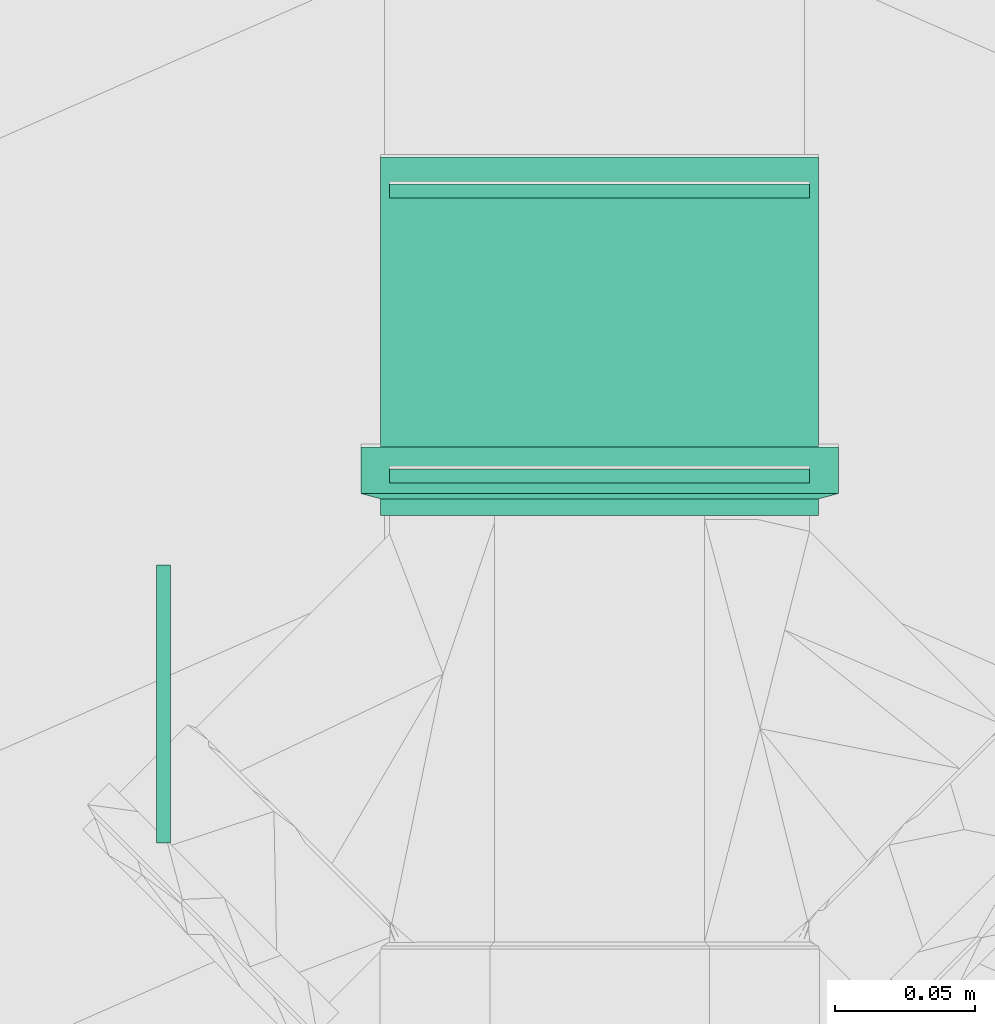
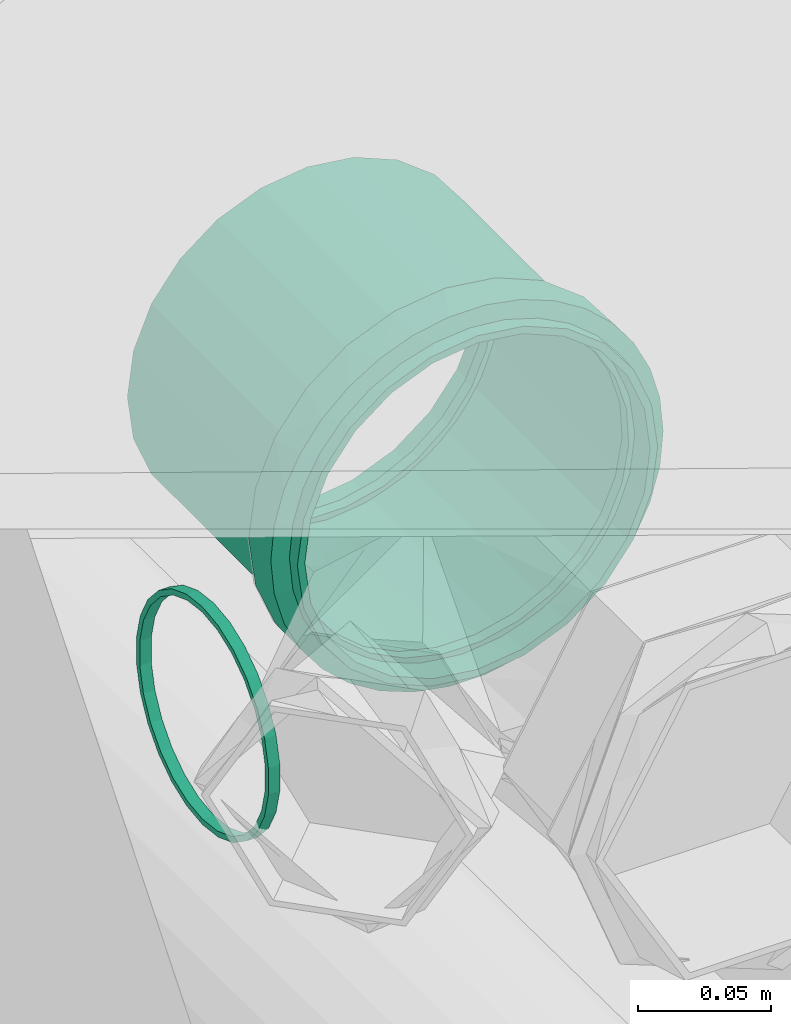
# One storey, part 128 of 166: 4 flow fittings.
"""IFC2X3 building model written with IfcOpenShell, lengths in metres."""

from ifc_helpers import new_model, entity, si_unit, converted_unit, direction, frame, frame_2d, origin, place, context, subcontext, project, spatial, hollow_circle, extrude, faceted_brep, source, transform, mapped, material, type_object, type_shapes, element, save


model = new_model("IFC2X3")

# Units and contexts
model_context = context("Model", 3, precision=1e-05, world=origin(), true_north=direction((6.123233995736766e-17, 1.0)))
body_context = subcontext(model_context, "Body", "Model", "MODEL_VIEW")
ifc_project = project(units=[si_unit("LENGTHUNIT", "METRE"), converted_unit("PLANEANGLEUNIT", "DEGREE", entity("IfcPlaneAngleMeasure", 0.017453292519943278), si_unit("PLANEANGLEUNIT", "RADIAN"), dimensions=[0, 0, 0, 0, 0, 0, 0]), si_unit("AREAUNIT", "SQUARE_METRE")], contexts=[model_context])

# Site, building, storey
site_placement = place(None, origin())
site = spatial("IfcSite", under=ifc_project, at=site_placement, Name="Default", CompositionType="ELEMENT")
building_placement = place(site_placement, origin())
building = spatial("IfcBuilding", under=site, at=building_placement, Name="CASA DE ACOLHIDA PARA IDOSOS", CompositionType="ELEMENT")
storey_placement = place(building_placement, frame((0.0, 0.0, -1.7499999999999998)))
storey = spatial("IfcBuildingStorey", under=building, at=storey_placement, Name="IMPLANTAÇÃO DRENAGEM", CompositionType="ELEMENT", Elevation=-1.7499999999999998)

# Flow fittings
ifc_material_1 = material(Name="PVC Bege Pérola")
pipe_fitting_type_1 = type_object("IfcPipeFittingType", Name="PLUV_Serie Reforcada_Luva Simples:Standard", PredefinedType="NOTDEFINED", material=ifc_material_1)
shared_shape_1 = source(origin(), body_context, "Body", "Brep", [
    faceted_brep([(0.02451000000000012, -0.039124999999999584, -0.06776648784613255), (0.02451000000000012, -0.06028085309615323, -0.06028085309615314), (0.02451000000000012, -0.04262500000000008, -0.07382866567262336), (0.02451000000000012, -0.020252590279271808, -0.0755836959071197), (0.02451000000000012, -0.05533110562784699, -0.055331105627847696), (0.02451000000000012, -0.07382866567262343, -0.04262499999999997), (0.02451000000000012, -0.06776648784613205, -0.03912500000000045), (0.02451000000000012, -0.07558369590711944, -0.02025259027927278), (0.02451000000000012, -0.08234517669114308, -0.022064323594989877), (0.02451000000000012, -0.07825, 0.0), (0.02451000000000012, -0.08525, 0.0), (0.02451000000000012, -0.07558369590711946, 0.020252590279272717), (0.02451000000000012, -0.0823451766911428, 0.022064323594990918), (0.02451000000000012, -0.06776648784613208, 0.039125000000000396), (0.02451000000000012, -0.07382866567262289, 0.04262500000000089), (0.02451000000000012, -0.05533110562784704, 0.055331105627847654), (0.02451000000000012, -0.06028085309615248, 0.0602808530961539), (0.02451000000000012, -0.03912499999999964, 0.06776648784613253), (0.02451000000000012, -0.04262499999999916, 0.07382866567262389), (0.02451000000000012, -0.020252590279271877, 0.07558369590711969), (0.02451000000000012, -0.02206432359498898, 0.08234517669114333), (0.02451000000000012, 0.0, 0.07825), (0.02451000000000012, 0.0, 0.08525), (0.02451000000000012, 0.020252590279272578, 0.0755836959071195), (0.02451000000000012, 0.022064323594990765, 0.08234517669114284), (0.02451000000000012, 0.03912500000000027, 0.06776648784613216), (0.02451000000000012, 0.042625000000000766, 0.07382866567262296), (0.02451000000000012, 0.05533110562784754, 0.055331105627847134), (0.02451000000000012, 0.0602808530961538, 0.06028085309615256), (0.02451000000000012, 0.06776648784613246, 0.03912499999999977), (0.02451000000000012, 0.07382866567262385, 0.042624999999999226), (0.02451000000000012, 0.08234517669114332, 0.02206432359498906), (0.02451000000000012, 0.07558369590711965, 0.020252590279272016), (0.02451000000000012, 0.08525, 0.0), (0.02451000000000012, 0.07825, 0.0), (0.02451000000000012, 0.08234517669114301, -0.022064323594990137), (0.02451000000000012, 0.07558369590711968, -0.020252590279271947), (0.02451000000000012, 0.07382866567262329, -0.04262500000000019), (0.02451000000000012, 0.0677664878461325, -0.03912499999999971), (0.02451000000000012, 0.060280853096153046, -0.060280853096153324), (0.02451000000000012, 0.05533110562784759, -0.055331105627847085), (0.02451000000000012, 0.042624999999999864, -0.0738286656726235), (0.02451000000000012, 0.039125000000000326, -0.06776648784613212), (0.02451000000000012, 0.02206432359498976, -0.08234517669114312), (0.02451000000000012, 0.02025259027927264, -0.07558369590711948), (0.02451000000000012, 0.0, -0.08525), (0.02451000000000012, 0.0, -0.07825), (0.02451000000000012, -0.022064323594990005, -0.08234517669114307), (0.007830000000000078, 0.08379835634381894, 0.01566518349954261), (0.007830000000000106, 0.07949286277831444, 0.03079687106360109), (0.007830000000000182, 0.05137242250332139, 0.06803261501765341), (0.007830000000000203, 0.03799626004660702, 0.07631413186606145), (0.007830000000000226, 0.00786152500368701, 0.08488674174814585), (0.00783000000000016, 0.06299903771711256, 0.057434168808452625), (0.007830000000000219, 0.023326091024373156, 0.08199668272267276), (0.007830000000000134, 0.07248014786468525, 0.044879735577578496), (0.00783000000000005, 0.08525, 0.0), (0.00783000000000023, -0.007870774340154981, 0.08488588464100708), (0.007830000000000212, -0.03800457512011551, 0.07630999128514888), (0.007830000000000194, -0.05137983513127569, 0.06802701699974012), (0.007830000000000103, -0.07949621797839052, 0.030788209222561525), (0.007830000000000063, -0.08380006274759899, 0.015656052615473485), (0.007830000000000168, -0.06300529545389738, 0.05742730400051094), (0.00783000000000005, -0.08525, 0.0), (0.007830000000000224, -0.023335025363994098, 0.08199414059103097), (0.007830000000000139, -0.07248503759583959, 0.04487183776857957), (0.007830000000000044, -0.08380006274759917, -0.015656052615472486), (0.007830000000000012, -0.07949621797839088, -0.03078820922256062), (0.00782999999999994, -0.05137983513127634, -0.06802701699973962), (0.007829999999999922, -0.038004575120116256, -0.07630999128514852), (0.007829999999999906, -0.007870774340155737, -0.084885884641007), (0.00782999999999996, -0.063005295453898, -0.05742730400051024), (0.007829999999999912, -0.023335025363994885, -0.08199414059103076), (0.007829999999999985, -0.07248503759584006, -0.04487183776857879), (0.007829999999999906, 0.007861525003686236, -0.0848867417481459), (0.007829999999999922, 0.037996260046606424, -0.07631413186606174), (0.007829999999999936, 0.05137242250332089, -0.06803261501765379), (0.00783, 0.07949286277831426, -0.030796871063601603), (0.007830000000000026, 0.08379835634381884, -0.015665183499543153), (0.007829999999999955, 0.06299903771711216, -0.057434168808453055), (0.007829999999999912, 0.023326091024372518, -0.08199668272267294), (0.007829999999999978, 0.07248014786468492, -0.044879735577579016), (0.1280100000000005, -0.0374999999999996, -0.06495190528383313), (0.1280100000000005, -0.055331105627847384, -0.05533110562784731), (0.1280100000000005, -0.03912500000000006, -0.06776648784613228), (0.1280100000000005, -0.01941142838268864, -0.07244443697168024), (0.1280100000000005, -0.05303300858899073, -0.053033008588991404), (0.1280100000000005, -0.06776648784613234, -0.039124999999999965), (0.1280100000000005, -0.06495190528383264, -0.03750000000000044), (0.1280100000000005, -0.07244443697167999, -0.01941142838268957), (0.1280100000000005, -0.07558369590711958, -0.020252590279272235), (0.1280100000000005, -0.07500000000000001, 0.0), (0.1280100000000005, -0.07825, 0.0), (0.1280100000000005, -0.07244443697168, 0.019411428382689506), (0.1280100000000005, -0.07558369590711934, 0.020252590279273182), (0.1280100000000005, -0.06495190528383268, 0.03750000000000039), (0.1280100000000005, -0.06776648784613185, 0.03912500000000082), (0.1280100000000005, -0.05303300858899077, 0.05303300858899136), (0.1280100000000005, -0.0553311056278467, 0.055331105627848), (0.1280100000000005, -0.03749999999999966, 0.0649519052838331), (0.1280100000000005, -0.039124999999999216, 0.06776648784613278), (0.1280100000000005, -0.0194114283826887, 0.07244443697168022), (0.1280100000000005, -0.020252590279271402, 0.07558369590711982), (0.1280100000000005, 0.0, 0.07500000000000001), (0.1280100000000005, 0.0, 0.07825), (0.1280100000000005, 0.019411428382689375, 0.07244443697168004), (0.1280100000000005, 0.020252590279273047, 0.07558369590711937), (0.1280100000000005, 0.03750000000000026, 0.06495190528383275), (0.1280100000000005, 0.039125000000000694, 0.06776648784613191), (0.1280100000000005, 0.05303300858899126, 0.05303300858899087), (0.1280100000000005, 0.055331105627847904, 0.05533110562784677), (0.1280100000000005, 0.06495190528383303, 0.037499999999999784), (0.1280100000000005, 0.06776648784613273, 0.039124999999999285), (0.1280100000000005, 0.0755836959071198, 0.02025259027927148), (0.1280100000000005, 0.07244443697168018, 0.019411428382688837), (0.1280100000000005, 0.07825, 0.0), (0.1280100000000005, 0.07500000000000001, 0.0), (0.1280100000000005, 0.07558369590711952, -0.020252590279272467), (0.1280100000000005, 0.0724444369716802, -0.01941142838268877), (0.1280100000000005, 0.06776648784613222, -0.039125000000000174), (0.1280100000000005, 0.06495190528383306, -0.03749999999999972), (0.1280100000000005, 0.05533110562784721, -0.05533110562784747), (0.1280100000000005, 0.053033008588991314, -0.05303300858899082), (0.1280100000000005, 0.03912499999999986, -0.0677664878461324), (0.1280100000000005, 0.03750000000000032, -0.06495190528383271), (0.1280100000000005, 0.02025259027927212, -0.07558369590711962), (0.1280100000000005, 0.019411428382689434, -0.07244443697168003), (0.1280100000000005, 0.0, -0.07825), (0.1280100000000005, 0.0, -0.07500000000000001), (0.1280100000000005, -0.020252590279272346, -0.07558369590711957), (0.0, -0.03912500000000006, -0.06776648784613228), (0.0, -0.055331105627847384, -0.05533110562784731), (0.0, -0.0374999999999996, -0.06495190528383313), (0.0, -0.01941142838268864, -0.07244443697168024), (0.0, -0.020252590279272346, -0.07558369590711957), (0.0, -0.05303300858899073, -0.053033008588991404), (0.0, -0.06776648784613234, -0.039124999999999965), (0.0, -0.06495190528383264, -0.03750000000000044), (0.0, -0.07244443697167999, -0.01941142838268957), (0.0, -0.07558369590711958, -0.020252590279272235), (0.0, -0.07500000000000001, 0.0), (0.0, -0.07825, 0.0), (0.0, -0.07244443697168, 0.019411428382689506), (0.0, -0.07558369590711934, 0.020252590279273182), (0.0, -0.06495190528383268, 0.03750000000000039), (0.0, -0.06776648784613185, 0.03912500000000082), (0.0, -0.05303300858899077, 0.05303300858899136), (0.0, -0.0553311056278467, 0.055331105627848), (0.0, -0.03749999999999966, 0.0649519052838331), (0.0, -0.039124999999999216, 0.06776648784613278), (0.0, -0.0194114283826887, 0.07244443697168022), (0.0, -0.020252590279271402, 0.07558369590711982), (0.0, 0.0, 0.07500000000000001), (0.0, 0.0, 0.07825), (0.0, 0.019411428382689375, 0.07244443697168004), (0.0, 0.020252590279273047, 0.07558369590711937), (0.0, 0.03750000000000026, 0.06495190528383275), (0.0, 0.039125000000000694, 0.06776648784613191), (0.0, 0.05303300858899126, 0.05303300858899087), (0.0, 0.055331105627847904, 0.05533110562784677), (0.0, 0.06495190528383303, 0.037499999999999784), (0.0, 0.06776648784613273, 0.039124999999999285), (0.0, 0.0755836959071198, 0.02025259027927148), (0.0, 0.07244443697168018, 0.019411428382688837), (0.0, 0.07825, 0.0), (0.0, 0.07500000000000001, 0.0), (0.0, 0.07558369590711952, -0.020252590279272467), (0.0, 0.0724444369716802, -0.01941142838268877), (0.0, 0.06776648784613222, -0.039125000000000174), (0.0, 0.06495190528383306, -0.03749999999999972), (0.0, 0.05533110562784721, -0.05533110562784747), (0.0, 0.053033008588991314, -0.05303300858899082), (0.0, 0.03912499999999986, -0.0677664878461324), (0.0, 0.03750000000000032, -0.06495190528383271), (0.0, 0.02025259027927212, -0.07558369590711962), (0.0, 0.019411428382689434, -0.07244443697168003), (0.0, 0.0, -0.07825), (0.0, 0.0, -0.07500000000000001), (0.0059500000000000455, 0.07825, 0.0), (0.005950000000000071, 0.07674636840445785, 0.015266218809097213), (0.005950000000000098, 0.0722932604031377, 0.02994573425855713), (0.005950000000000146, 0.05532994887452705, 0.05533226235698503), (0.005950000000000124, 0.06506181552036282, 0.043474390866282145), (0.005950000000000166, 0.04347167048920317, 0.06506363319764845), (0.005950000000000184, 0.029942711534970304, 0.07229451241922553), (0.005950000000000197, 0.015263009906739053, 0.07674700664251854), (0.005950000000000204, -3.271758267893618e-06, 0.07824999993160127), (0.005950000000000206, -0.015269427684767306, 0.07674573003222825), (0.005950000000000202, -0.029948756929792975, 0.07229200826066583), (0.005950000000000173, -0.055334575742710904, 0.05532763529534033), (0.00595000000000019, -0.04347711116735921, 0.0650599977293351), (0.0059500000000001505, -0.06506545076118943, 0.043468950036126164), (0.005950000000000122, -0.07229576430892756, 0.02993968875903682), (0.0059500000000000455, -0.07825, 0.0), (0.005950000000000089, -0.07674764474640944, 0.015259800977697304), (0.0059499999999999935, -0.07674764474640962, -0.015259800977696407), (0.005949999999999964, -0.0722957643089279, -0.02993968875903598), (0.005949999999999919, -0.05533457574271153, -0.05532763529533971), (0.005949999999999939, -0.06506545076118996, -0.04346895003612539), (0.005949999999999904, -0.04347711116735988, -0.06505999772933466), (0.005949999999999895, -0.029948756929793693, -0.07229200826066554), (0.00594999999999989, -0.015269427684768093, -0.0767457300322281), (0.005949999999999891, -3.2717582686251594e-06, -0.07824999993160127), (0.005949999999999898, 0.015263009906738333, -0.07674700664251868), (0.00594999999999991, 0.029942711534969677, -0.0722945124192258), (0.005949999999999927, 0.04347167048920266, -0.0650636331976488), (0.00594999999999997, 0.06506181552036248, -0.043474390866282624), (0.005949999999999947, 0.055329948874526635, -0.055332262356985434), (0.005949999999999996, 0.0722932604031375, -0.02994573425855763), (0.00595000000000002, 0.07674636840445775, -0.015266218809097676), (0.06700000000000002, 0.07500000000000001, 0.0), (0.067, -0.07500000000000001, 0.0)], [[[0, 1, 2]], [[3, 0, 2]], [[4, 1, 0]], [[1, 4, 5]], [[6, 5, 4]], [[7, 5, 6]], [[5, 7, 8]], [[7, 9, 8]], [[10, 8, 9]], [[10, 9, 11]], [[11, 12, 10]], [[13, 12, 11]], [[12, 13, 14]], [[15, 14, 13]], [[16, 14, 15]], [[16, 15, 17]], [[17, 18, 16]], [[19, 18, 17]], [[18, 19, 20]], [[21, 20, 19]], [[22, 20, 21]], [[23, 22, 21]], [[24, 22, 23]], [[25, 24, 23]], [[24, 25, 26]], [[25, 27, 26]], [[28, 26, 27]], [[27, 29, 28]], [[28, 29, 30]], [[31, 30, 29]], [[29, 32, 31]], [[31, 32, 33]], [[32, 34, 33]], [[33, 34, 35]], [[34, 36, 35]], [[37, 35, 36]], [[36, 38, 37]], [[39, 37, 38]], [[40, 39, 38]], [[40, 41, 39]], [[42, 41, 40]], [[43, 41, 42]], [[42, 44, 43]], [[43, 44, 45]], [[44, 46, 45]], [[46, 3, 47]], [[45, 46, 47]], [[2, 47, 3]], [[33, 48, 31]], [[31, 49, 30]], [[26, 28, 50]], [[51, 24, 26]], [[22, 24, 52]], [[53, 28, 30]], [[24, 54, 52]], [[30, 49, 55]], [[31, 48, 49]], [[33, 56, 48]], [[26, 50, 51]], [[50, 28, 53]], [[30, 55, 53]], [[54, 24, 51]], [[22, 57, 20]], [[18, 20, 58]], [[59, 16, 18]], [[12, 14, 60]], [[61, 10, 12]], [[62, 14, 16]], [[61, 63, 10]], [[18, 58, 59]], [[20, 64, 58]], [[20, 57, 64]], [[14, 65, 60]], [[65, 14, 62]], [[16, 59, 62]], [[61, 12, 60]], [[52, 57, 22]], [[10, 66, 8]], [[8, 67, 5]], [[2, 1, 68]], [[69, 47, 2]], [[45, 47, 70]], [[71, 1, 5]], [[47, 72, 70]], [[5, 67, 73]], [[8, 66, 67]], [[10, 63, 66]], [[2, 68, 69]], [[68, 1, 71]], [[5, 73, 71]], [[72, 47, 69]], [[45, 74, 43]], [[41, 43, 75]], [[76, 39, 41]], [[77, 35, 37]], [[33, 35, 78]], [[78, 56, 33]], [[79, 37, 39]], [[35, 77, 78]], [[41, 75, 76]], [[43, 80, 75]], [[43, 74, 80]], [[81, 37, 79]], [[39, 76, 79]], [[37, 81, 77]], [[70, 74, 45]], [[82, 83, 84]], [[85, 82, 84]], [[86, 83, 82]], [[83, 86, 87]], [[88, 87, 86]], [[89, 87, 88]], [[87, 89, 90]], [[89, 91, 90]], [[92, 90, 91]], [[92, 91, 93]], [[93, 94, 92]], [[95, 94, 93]], [[94, 95, 96]], [[97, 96, 95]], [[98, 96, 97]], [[98, 97, 99]], [[99, 100, 98]], [[101, 100, 99]], [[100, 101, 102]], [[103, 102, 101]], [[104, 102, 103]], [[105, 104, 103]], [[106, 104, 105]], [[107, 106, 105]], [[106, 107, 108]], [[108, 107, 109]], [[110, 108, 109]], [[109, 111, 110]], [[110, 111, 112]], [[113, 112, 111]], [[111, 114, 113]], [[113, 114, 115]], [[114, 116, 115]], [[115, 116, 117]], [[116, 118, 117]], [[119, 117, 118]], [[118, 120, 119]], [[121, 119, 120]], [[122, 121, 120]], [[122, 123, 121]], [[123, 122, 124]], [[125, 123, 124]], [[124, 126, 125]], [[125, 126, 127]], [[126, 128, 127]], [[128, 85, 129]], [[127, 128, 129]], [[84, 129, 85]], [[130, 131, 132]], [[130, 132, 133]], [[133, 134, 130]], [[132, 131, 135]], [[136, 135, 131]], [[135, 136, 137]], [[137, 136, 138]], [[139, 138, 136]], [[139, 140, 138]], [[140, 139, 141]], [[142, 140, 141]], [[141, 143, 142]], [[142, 143, 144]], [[145, 144, 143]], [[144, 145, 146]], [[146, 145, 147]], [[148, 146, 147]], [[147, 149, 148]], [[148, 149, 150]], [[151, 150, 149]], [[150, 151, 152]], [[152, 151, 153]], [[152, 153, 154]], [[154, 153, 155]], [[154, 155, 156]], [[157, 156, 155]], [[158, 156, 157]], [[158, 157, 159]], [[159, 160, 158]], [[161, 160, 159]], [[160, 161, 162]], [[162, 163, 160]], [[164, 163, 162]], [[164, 165, 163]], [[166, 165, 164]], [[166, 167, 165]], [[167, 166, 168]], [[168, 169, 167]], [[169, 168, 170]], [[169, 170, 171]], [[170, 172, 171]], [[173, 171, 172]], [[173, 172, 174]], [[174, 175, 173]], [[176, 175, 174]], [[134, 177, 176]], [[176, 177, 175]], [[134, 133, 177]], [[178, 164, 179]], [[179, 162, 180]], [[181, 182, 159]], [[159, 183, 181]], [[161, 182, 180]], [[183, 157, 184]], [[182, 161, 159]], [[180, 162, 161]], [[179, 164, 162]], [[155, 153, 185]], [[186, 185, 153]], [[155, 184, 157]], [[183, 159, 157]], [[184, 155, 185]], [[187, 153, 151]], [[187, 151, 188]], [[189, 190, 147]], [[147, 191, 189]], [[149, 190, 188]], [[191, 145, 192]], [[191, 147, 145]], [[190, 149, 147]], [[188, 151, 149]], [[141, 193, 194]], [[194, 143, 141]], [[192, 145, 143]], [[143, 194, 192]], [[186, 153, 187]], [[193, 141, 195]], [[195, 139, 196]], [[197, 198, 131]], [[131, 199, 197]], [[136, 198, 196]], [[199, 130, 200]], [[198, 136, 131]], [[196, 139, 136]], [[195, 141, 139]], [[176, 201, 134]], [[134, 200, 130]], [[176, 202, 201]], [[199, 131, 130]], [[200, 134, 201]], [[203, 174, 204]], [[204, 172, 205]], [[206, 207, 170]], [[208, 206, 168]], [[170, 207, 205]], [[209, 208, 166]], [[205, 172, 170]], [[204, 174, 172]], [[203, 176, 174]], [[209, 166, 164]], [[166, 208, 168]], [[206, 170, 168]], [[178, 209, 164]], [[202, 176, 203]], [[206, 208, 81]], [[78, 209, 178]], [[77, 208, 209]], [[75, 204, 205]], [[205, 207, 76]], [[206, 79, 207]], [[204, 80, 203]], [[77, 209, 78]], [[78, 178, 56]], [[81, 208, 77]], [[203, 80, 74]], [[207, 79, 76]], [[205, 76, 75]], [[204, 75, 80]], [[79, 206, 81]], [[74, 202, 203]], [[200, 201, 72]], [[202, 70, 201]], [[200, 69, 199]], [[67, 195, 196]], [[196, 198, 73]], [[71, 198, 197]], [[199, 68, 197]], [[193, 195, 66]], [[199, 69, 68]], [[201, 70, 72]], [[200, 72, 69]], [[193, 66, 63]], [[198, 71, 73]], [[196, 73, 67]], [[195, 67, 66]], [[71, 197, 68]], [[74, 70, 202]], [[191, 192, 65]], [[61, 194, 193]], [[60, 192, 194]], [[58, 188, 190]], [[190, 189, 59]], [[191, 62, 189]], [[188, 64, 187]], [[60, 194, 61]], [[61, 193, 63]], [[65, 192, 60]], [[187, 64, 57]], [[189, 62, 59]], [[190, 59, 58]], [[188, 58, 64]], [[62, 191, 65]], [[57, 186, 187]], [[184, 185, 54]], [[186, 52, 185]], [[184, 51, 183]], [[49, 179, 180]], [[180, 182, 55]], [[53, 182, 181]], [[183, 50, 181]], [[178, 179, 48]], [[183, 51, 50]], [[185, 52, 54]], [[184, 54, 51]], [[178, 48, 56]], [[182, 53, 55]], [[180, 55, 49]], [[179, 49, 48]], [[53, 181, 50]], [[57, 52, 186]], [[113, 115, 34, 32]], [[113, 32, 29, 112]], [[108, 110, 27, 25]], [[27, 110, 112, 29]], [[106, 108, 25, 23]], [[23, 21, 104, 106]], [[100, 102, 19, 17]], [[100, 17, 15, 98]], [[94, 96, 13, 11]], [[13, 96, 98, 15]], [[92, 94, 11, 9]], [[104, 21, 19, 102]], [[90, 92, 9, 7]], [[90, 7, 6, 87]], [[3, 129, 84, 0]], [[4, 0, 84, 83]], [[83, 87, 6, 4]], [[3, 46, 127, 129]], [[123, 125, 44, 42]], [[123, 42, 40, 121]], [[117, 119, 38, 36]], [[38, 119, 121, 40]], [[115, 117, 36, 34]], [[127, 46, 44, 125]], [[210, 116, 114, 163, 165]], [[109, 107, 156, 158]], [[158, 160, 111, 109]], [[160, 163, 114, 111]], [[154, 156, 107, 105]], [[105, 103, 152, 154]], [[150, 152, 103, 101]], [[99, 148, 150, 101]], [[95, 93, 142, 144]], [[144, 146, 97, 95]], [[146, 148, 99, 97]], [[211, 140, 142, 93, 91]], [[91, 89, 138, 140, 211]], [[86, 82, 132, 135]], [[138, 89, 88, 137]], [[86, 135, 137, 88]], [[133, 132, 82, 85]], [[85, 128, 177, 133]], [[175, 177, 128, 126]], [[124, 173, 175, 126]], [[120, 118, 167, 169]], [[169, 171, 122, 120]], [[171, 173, 124, 122]], [[210, 165, 167, 118, 116]]]),
])
type_shapes(pipe_fitting_type_1, [shared_shape_1])
flow_fitting_1_placement = place(storey_placement, frame((22.970504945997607, 43.89959344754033, -1.0), z_axis=(0.0, 0.0, -1.0), x_axis=(0.0, 1.0, 0.0)))
element("IfcFlowFitting", 1, at=flow_fitting_1_placement, inside=storey, type_object=pipe_fitting_type_1, material=ifc_material_1, Name="PLUV_Serie Reforcada_Luva Simples:Standard", ObjectType="PLUV_Serie Reforcada_Luva Simples:Standard", context=body_context, shape_type="MappedRepresentation", body=[
    mapped(shared_shape_1, transform((0.0, 0.0, 0.0), scale=1.0)),
])
ifc_material_2 = material(Name="Borracha")
pipe_fitting_type_2 = type_object("IfcPipeFittingType", Name="AN_PLUV_Anel de vedação para Conexão Série R:AN_PLUV_Anel de vedação para Conexão Série R", PredefinedType="NOTDEFINED", material=ifc_material_2)
shared_shape_2 = source(origin(), body_context, "Body", "SweptSolid", [
    extrude(hollow_circle(Radius=0.05, WallThickness=0.0024999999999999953, at=frame_2d((2.979563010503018e-18, -2.251062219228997e-16), x_axis=(1.0, 0.0))), frame((0.0, 0.0, -0.004999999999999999)), (0.0, 0.0, 1.0), 0.004999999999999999),
])
type_shapes(pipe_fitting_type_2, [shared_shape_2])
flow_fitting_2_placement = place(storey_placement, frame((22.81715886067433, 43.832277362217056, -1.0), z_axis=(1.0, 0.0, 0.0), x_axis=(0.0, 0.0, 1.0)))
element("IfcFlowFitting", 2, at=flow_fitting_2_placement, inside=storey, type_object=pipe_fitting_type_2, material=ifc_material_2, Name="AN_PLUV_Anel de vedação para Conexão Série R:AN_PLUV_Anel de vedação para Conexão Série R", ObjectType="AN_PLUV_Anel de vedação para Conexão Série R:AN_PLUV_Anel de vedação para Conexão Série R", context=body_context, shape_type="MappedRepresentation", body=[
    mapped(shared_shape_2, transform((0.0, 0.0, 0.0), scale=1.0)),
])
pipe_fitting_type_3 = type_object("IfcPipeFittingType", Name="AN_PLUV_Anel de vedação para Conexão Série R:AN_PLUV_Anel de vedação para Conexão Série R", PredefinedType="NOTDEFINED", material=ifc_material_2)
shared_shape_3 = source(origin(), body_context, "Body", "SweptSolid", [
    extrude(hollow_circle(Radius=0.07500000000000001, WallThickness=0.0025000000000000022, at=frame_2d((2.979563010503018e-18, -3.3765933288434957e-16), x_axis=(1.0, 0.0))), frame((0.0, 0.0, -0.004999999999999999)), (0.0, 0.0, 1.0), 0.004999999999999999),
])
type_shapes(pipe_fitting_type_3, [shared_shape_3])
for number, where, z_axis, x_axis in (
    (3, (22.970504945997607, 44.01294344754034, -1.0), (0.0, -1.0, 0.0), (0.0, 0.0, 1.0)),
    (4, (22.970504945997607, 43.91619344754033, -1.0), (0.0, 1.0, 0.0), (0.0, 0.0, 1.0)),
):
    element("IfcFlowFitting", number, at=place(storey_placement, frame(where, z_axis=z_axis, x_axis=x_axis)), inside=storey, type_object=pipe_fitting_type_3, material=ifc_material_2, Name="AN_PLUV_Anel de vedação para Conexão Série R:AN_PLUV_Anel de vedação para Conexão Série R", ObjectType="AN_PLUV_Anel de vedação para Conexão Série R:AN_PLUV_Anel de vedação para Conexão Série R", context=body_context, shape_type="MappedRepresentation", body=[
        mapped(shared_shape_3, transform((0.0, 0.0, 0.0), scale=1.0)),
    ])

save(model, "model.ifc")
